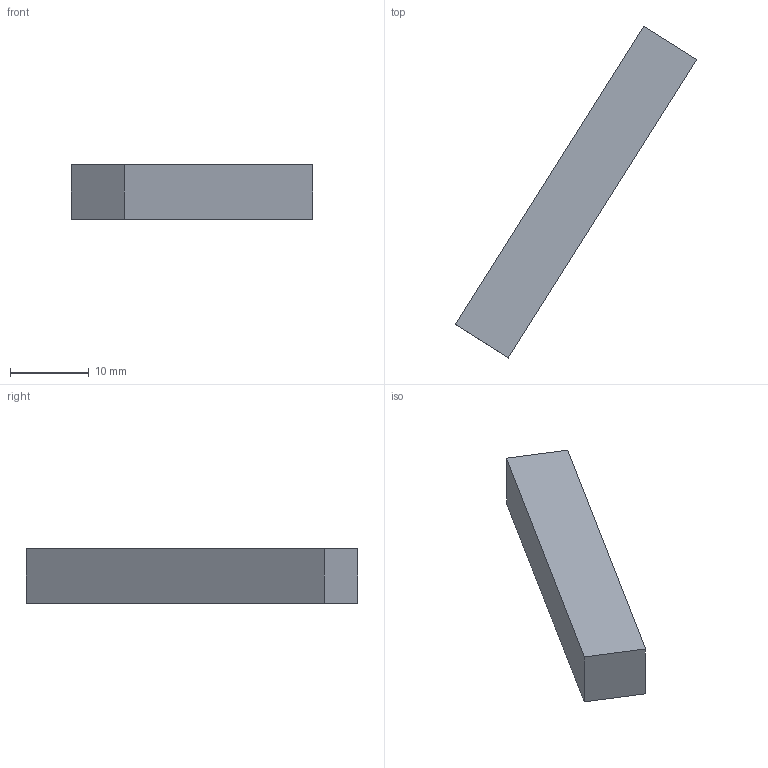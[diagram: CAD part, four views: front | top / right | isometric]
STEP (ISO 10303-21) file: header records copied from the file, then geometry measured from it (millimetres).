
FILE_DESCRIPTION(('Open CASCADE Model'),'2;1');
FILE_NAME('Open CASCADE Shape Model','2026-10-04T02:31:39',('Author'),( 'Open CASCADE'),'Open CASCADE STEP processor 8.0','Open CASCADE 8.0' ,'Unknown');
FILE_SCHEMA(('AUTOMOTIVE_DESIGN { 1 0 10303 214 1 1 1 1 }'));
Length unit declared in the file: millimetre
Products named in the file (1): Open CASCADE STEP translator 8.0 185
Bounding box: 30.76 x 42.27 x 7 mm (x, y, z)
Volume: 2516.9 mm3; surface area: 1460.3 mm2
Topology: 1 solids, 1 shells, 6 faces, 12 edges, 8 vertices
Faces by surface type: plane 6
Entity records: 322 total; most frequent: CARTESIAN_POINT 51, DIRECTION 50, LINE 36, VECTOR 36, ORIENTED_EDGE 24, PCURVE 24, DEFINITIONAL_REPRESENTATION 24, EDGE_CURVE 12
